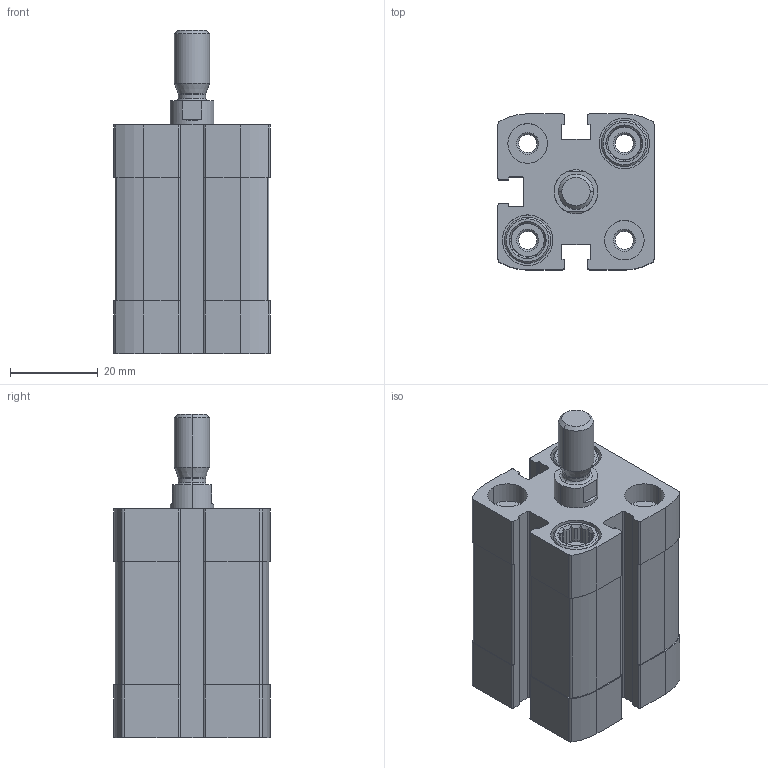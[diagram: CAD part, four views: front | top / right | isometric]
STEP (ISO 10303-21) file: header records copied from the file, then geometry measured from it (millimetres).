
FILE_DESCRIPTION (( 'STEP AP203' ), '1' );
FILE_NAME ('CCN20-15M.STEP', '2017-03-28T15:50:45', ( '' ), ( '' ), 'SwSTEP 2.0', 'SolidWorks 2016', '' );
FILE_SCHEMA (( 'CONFIG_CONTROL_DESIGN' ));
Length unit declared in the file: millimetre
Products named in the file (3): CCN-15---(Z); CCN-15 (KS); CCN20-15M
Assembly tree (2 placements, depth 2):
  CCN20-15M
    CCN-15---(Z)
    CCN-15 (KS)
Bounding box: 35.5 x 35.5 x 73.5 mm (x, y, z)
Volume: 50054.2 mm3; surface area: 21743.3 mm2
Topology: 2 solids, 2 shells, 409 faces, 1078 edges, 704 vertices
Faces by surface type: plane 231, cylinder 134, cone 40, bspline 4
Entity records: 13173 total; most frequent: CARTESIAN_POINT 2556, DIRECTION 2210, ORIENTED_EDGE 2156, EDGE_CURVE 1078, AXIS2_PLACEMENT_3D 822, VERTEX_POINT 704, LINE 566, VECTOR 566
